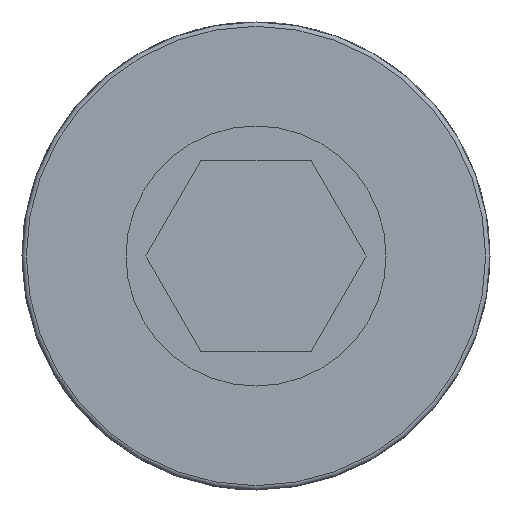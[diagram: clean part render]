
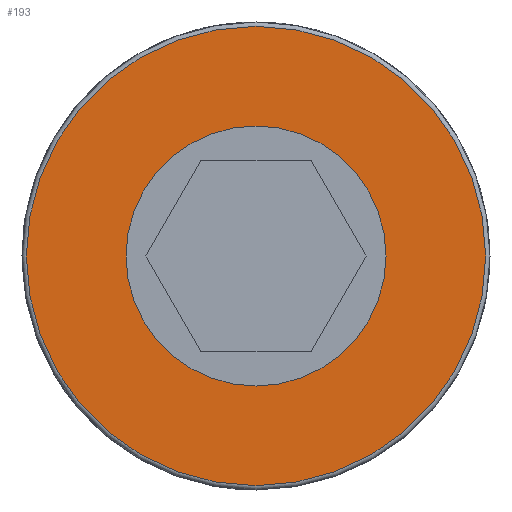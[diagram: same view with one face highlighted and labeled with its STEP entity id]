
A CAD part, front view. The second image highlights one B-rep face of the part: STEP entity #193.
In plain terms, the highlighted planar face has unit normal (0, -1, 0).
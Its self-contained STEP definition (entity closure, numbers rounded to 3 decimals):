
#193=ADVANCED_FACE('',(#274,#275),#276,.F.);
#274=FACE_OUTER_BOUND('',#390,.T.);
#275=FACE_BOUND('',#391,.T.);
#276=PLANE('',#392);
#390=EDGE_LOOP('',(#603));
#391=EDGE_LOOP('',(#604));
#392=AXIS2_PLACEMENT_3D('',#605,#606,#607);
#603=ORIENTED_EDGE('',*,*,#783,.T.);
#604=ORIENTED_EDGE('',*,*,#821,.F.);
#605=CARTESIAN_POINT('',(-26.5,-36.,0.0));
#606=DIRECTION('',(0.0,1.0,0.0));
#607=DIRECTION('',(0.0,0.0,1.0));
#783=EDGE_CURVE('',#880,#880,#881,.T.);
#821=EDGE_CURVE('',#946,#946,#947,.T.);
#880=VERTEX_POINT('',#1415);
#881=CIRCLE('',#1416,26.5);
#946=VERTEX_POINT('',#1515);
#947=CIRCLE('',#1516,15.0);
#1415=CARTESIAN_POINT('',(0.,-36.,-26.5));
#1416=AXIS2_PLACEMENT_3D('',#1686,#1687,#1688);
#1515=CARTESIAN_POINT('',(0.,-36.,-15.0));
#1516=AXIS2_PLACEMENT_3D('',#1732,#1733,#1734);
#1686=CARTESIAN_POINT('',(0.,-36.,0.0));
#1687=DIRECTION('',(0.0,-1.0,0.0));
#1688=DIRECTION('',(0.0,0.0,-1.0));
#1732=CARTESIAN_POINT('',(0.,-36.,0.0));
#1733=DIRECTION('',(0.0,-1.0,0.0));
#1734=DIRECTION('',(0.0,0.0,-1.0));
